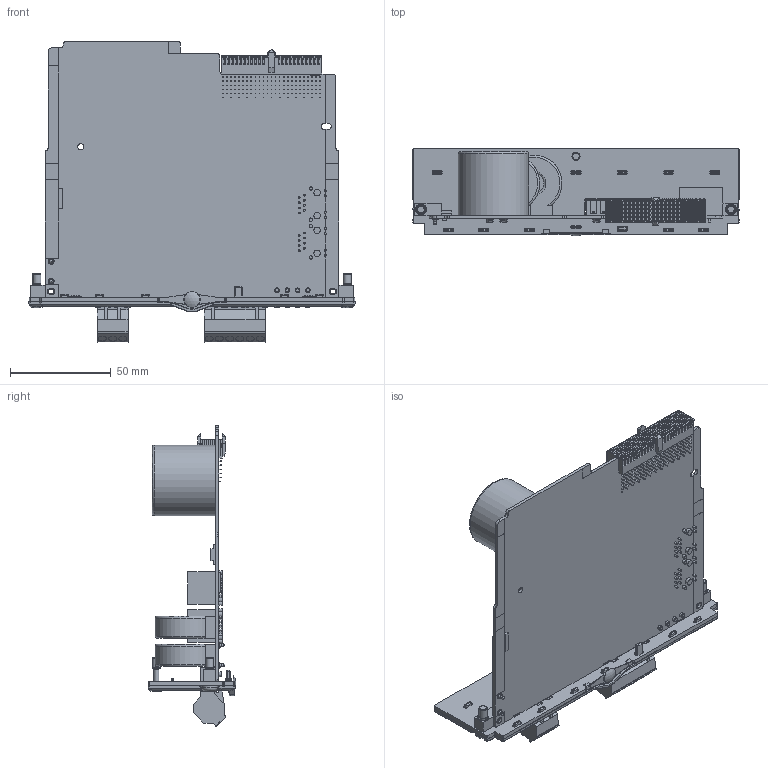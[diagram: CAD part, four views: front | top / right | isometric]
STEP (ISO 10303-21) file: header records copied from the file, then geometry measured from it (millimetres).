
FILE_DESCRIPTION(/* description */ (''),/* implementation_level */ '2;1');
FILE_NAME(/* name */ 'PSM3.1_20230928.stp',/* time_stamp */ '2023-09-28T13:39:26+02:00',/* author */ ('JDI'),/* organization */ (''),/* preprocessor_version */ 'ST-DEVELOPER v19.2',/* originating_system */ 'Autodesk Inventor 2023',/* authorisation */ '');
FILE_SCHEMA (('AUTOMOTIVE_DESIGN { 1 0 10303 214 3 1 1 }'));
Length unit declared in the file: millimetre
Products named in the file (1): 203460xxxx_PSM3.1_Simplify_1
Bounding box: 161.99 x 43.57 x 149.2 mm (x, y, z)
Volume: 130955.5 mm3; surface area: 78539.8 mm2
Topology: 1 solids, 1 shells, 5521 faces, 14366 edges, 9142 vertices
Faces by surface type: plane 4149, cylinder 937, cone 167, bspline 131, torus 124, sphere 13
Full cylindrical faces by diameter (mm): 0.434 x2, 0.8 x8, 0.9 x16, 1 x8, 1.5 x2, 1.7 x4, 2.2 x4, 2.3 x4, 2.459 x2, 2.5 x3, 3 x9, 3.05 x1, 3.2 x4, 3.242 x2, 3.3 x1, 4 x12, 4.4 x2, 4.5 x4, 5.5 x2, 8 x3, 10 x2, 35 x1
Entity records: 178710 total; most frequent: CARTESIAN_POINT 37043, ORIENTED_EDGE 28582, DIRECTION 26921, EDGE_CURVE 14291, LINE 11627, VECTOR 11627, VERTEX_POINT 9142, AXIS2_PLACEMENT_3D 7647
